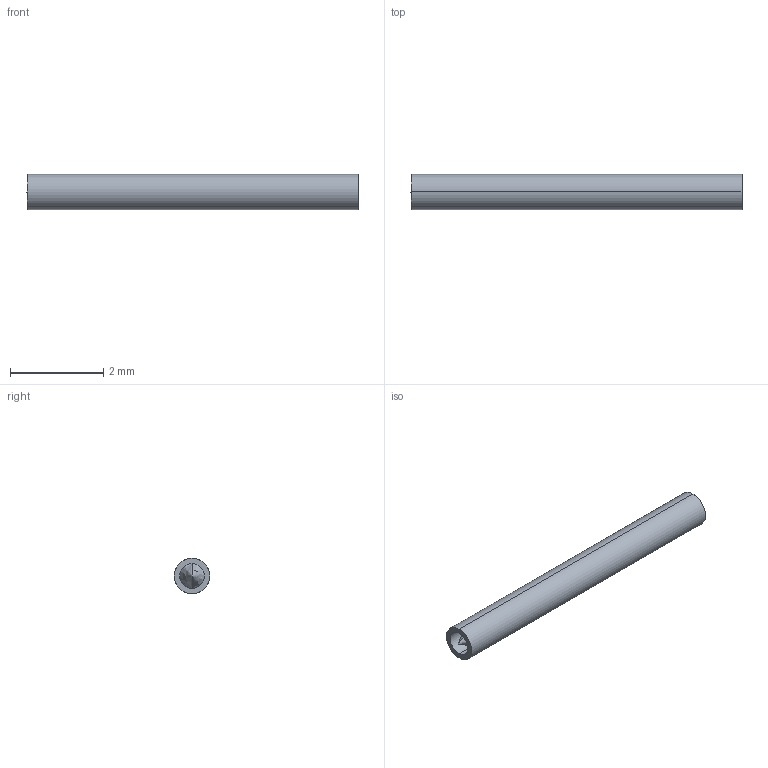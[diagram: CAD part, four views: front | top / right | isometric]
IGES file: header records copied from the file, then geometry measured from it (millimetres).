
Start section: SolidWorks IGES file using analytic representation for surfaces
Global section: file name: O:\PYLON\IGES FILES\A-A-S\A-A-S-C FULL.IGS; native system: SolidWorks 2015; preprocessor: SolidWorks 2015; author: kgolden; date: 171023.142552; units: inch
Bounding box: 7.14 x 0.76 x 0.76 mm (x, y, z)
Surface area: 21.1 mm2 (no closed solid volume)
Topology: 0 solids, 0 shells, 11 faces, 112 edges, 110 vertices
Faces by surface type: revolution 8, bspline 3
